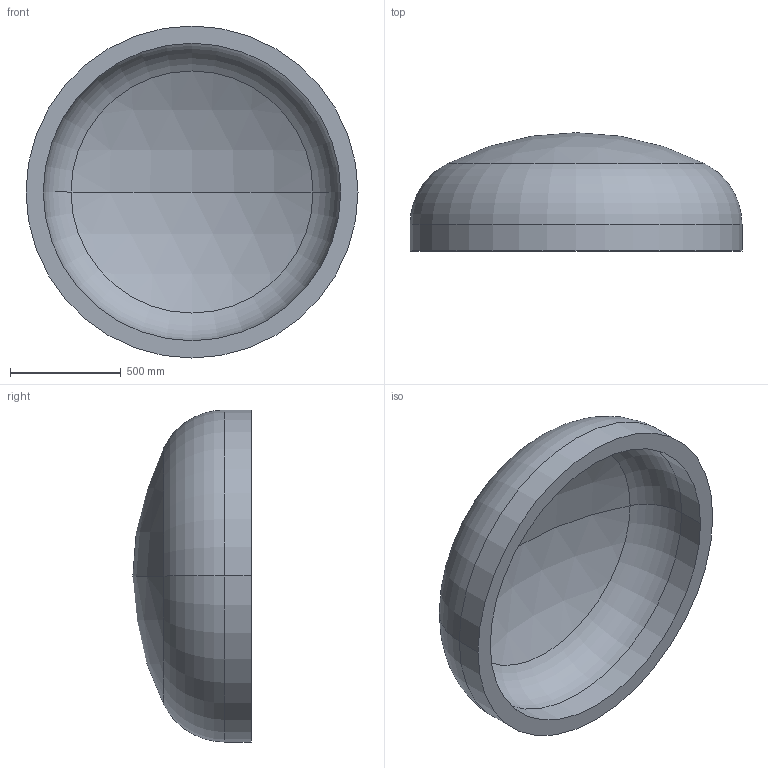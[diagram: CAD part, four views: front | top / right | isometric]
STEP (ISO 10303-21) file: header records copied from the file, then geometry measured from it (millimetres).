
FILE_DESCRIPTION (( 'STEP AP203' ), '1' );
FILE_NAME ('DIN 28013 Korbbogenform_-_Boden DIN 28013 - 1500 x 120 - I - s=78.step', '2016-07-01T10:54:03', ( '' ), ( '' ), 'SwSTEP 2.0', 'SolidWorks 2013', '' );
FILE_SCHEMA (( 'CONFIG_CONTROL_DESIGN' ));
Length unit declared in the file: millimetre
Products named in the file (1): DIN 28013 Korbbogenform_-_Boden DIN 28013 - 1500 x 120 - I - s=78
Bounding box: 1500 x 534.56 x 1500 mm (x, y, z)
Volume: 220238329.5 mm3; surface area: 6008330.5 mm2
Topology: 1 solids, 1 shells, 13 faces, 24 edges, 14 vertices
Faces by surface type: torus 4, cylinder 4, sphere 4, plane 1
Entity records: 407 total; most frequent: DIRECTION 72, CARTESIAN_POINT 52, ORIENTED_EDGE 48, AXIS2_PLACEMENT_3D 34, EDGE_CURVE 24, CIRCLE 20, EDGE_LOOP 14, VERTEX_POINT 14
